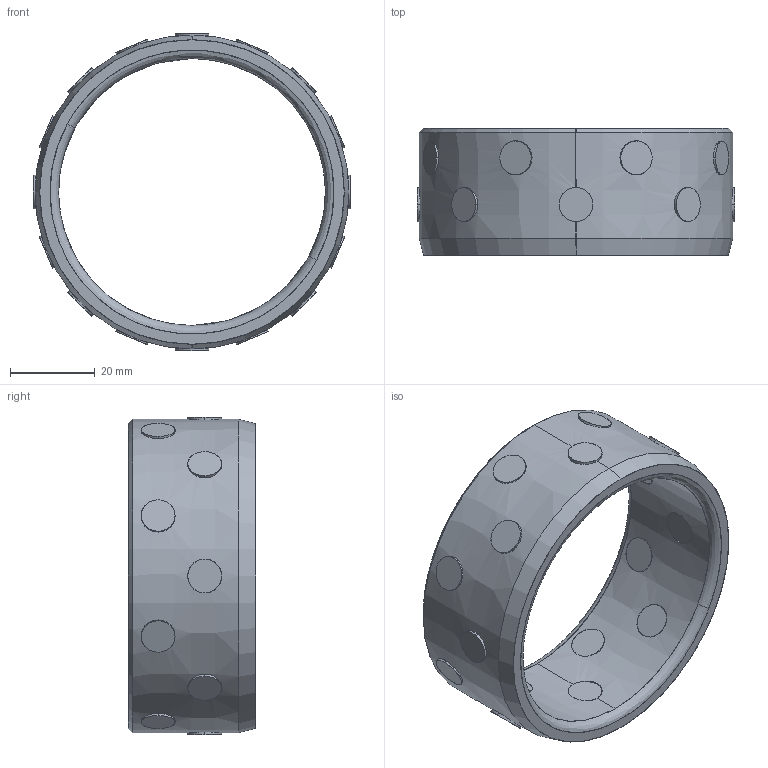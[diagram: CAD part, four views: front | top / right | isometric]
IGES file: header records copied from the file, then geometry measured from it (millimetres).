
Start section: SolidWorks IGES file using analytic representation for surfaces
Global section: file name: C:\Users\Dell\Desktop\deltakont\hatalýlar\D30.04\Ø63\D30.04_633074.IGS; native system: SolidWorks 2010; preprocessor: SolidWorks 2010; author: Dell; date: 111224.222502; units: millimetre
Bounding box: 75 x 30 x 75 mm (x, y, z)
Surface area: 19459.2 mm2 (no closed solid volume)
Topology: 0 solids, 0 shells, 114 faces, 3336 edges, 3336 vertices
Faces by surface type: revolution 74, bspline 40
